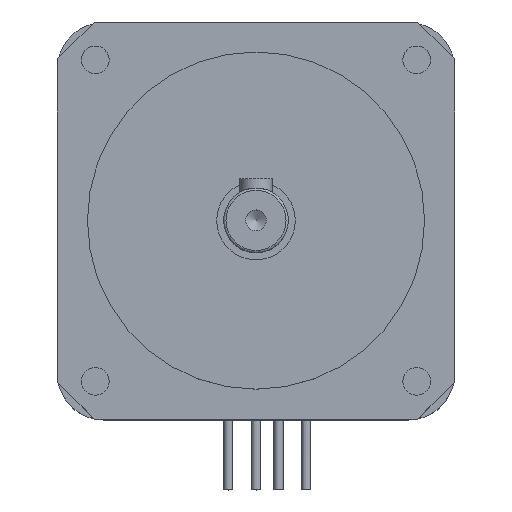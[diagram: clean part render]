
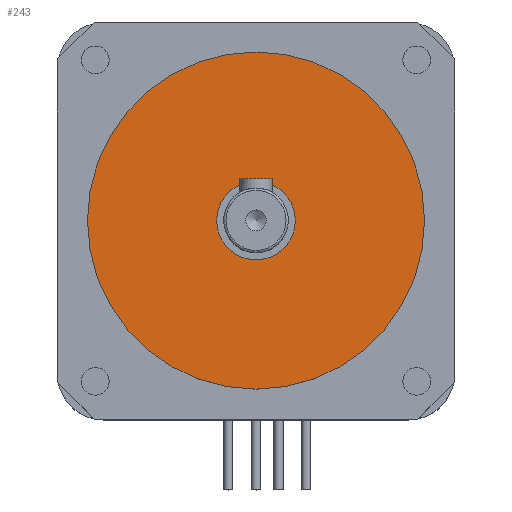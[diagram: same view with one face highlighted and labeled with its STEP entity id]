
A CAD part, top view. The second image highlights one B-rep face of the part: STEP entity #243.
In plain terms, the highlighted planar face has unit normal (0, 0, 1).
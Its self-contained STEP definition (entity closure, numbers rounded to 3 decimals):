
#117=FACE_BOUND('',#522,.T.);
#118=FACE_BOUND('',#523,.T.);
#164=PLANE('',#2267);
#243=ADVANCED_FACE('',(#117,#118),#164,.F.);
#522=EDGE_LOOP('',(#783));
#523=EDGE_LOOP('',(#784,#785,#786,#787));
#669=CIRCLE('',#2255,8.5);
#674=CIRCLE('',#2264,36.5);
#783=ORIENTED_EDGE('',*,*,#1576,.F.);
#784=ORIENTED_EDGE('',*,*,#1578,.T.);
#785=ORIENTED_EDGE('',*,*,#1579,.T.);
#786=ORIENTED_EDGE('',*,*,#1566,.F.);
#787=ORIENTED_EDGE('',*,*,#1580,.T.);
#1359=VERTEX_POINT('',#3125);
#1361=VERTEX_POINT('',#3129);
#1369=VERTEX_POINT('',#3182);
#1371=VERTEX_POINT('',#3187);
#1372=VERTEX_POINT('',#3188);
#1566=EDGE_CURVE('',#1361,#1359,#669,.T.);
#1576=EDGE_CURVE('',#1369,#1369,#674,.T.);
#1578=EDGE_CURVE('',#1371,#1372,#1865,.T.);
#1579=EDGE_CURVE('',#1372,#1359,#1866,.T.);
#1580=EDGE_CURVE('',#1361,#1371,#1867,.T.);
#1865=LINE('',#3186,#2062);
#1866=LINE('',#3189,#2063);
#1867=LINE('',#3190,#2064);
#2062=VECTOR('',#2511,1.);
#2063=VECTOR('',#2512,1.);
#2064=VECTOR('',#2513,1.);
#2255=AXIS2_PLACEMENT_3D('',#3130,#2483,#2484);
#2264=AXIS2_PLACEMENT_3D('',#3181,#2505,#2506);
#2267=AXIS2_PLACEMENT_3D('',#3191,#2514,#2515);
#2483=DIRECTION('',(0.,0.,1.));
#2484=DIRECTION('',(1.,0.,0.));
#2505=DIRECTION('',(0.,0.,-1.));
#2506=DIRECTION('',(1.,0.,0.));
#2511=DIRECTION('',(1.,0.,0.));
#2512=DIRECTION('',(0.,-1.,0.));
#2513=DIRECTION('',(0.,1.,0.));
#2514=DIRECTION('',(0.,0.,-1.));
#2515=DIRECTION('',(-1.,0.,0.));
#3125=CARTESIAN_POINT('',(3.5,7.746,2.5));
#3129=CARTESIAN_POINT('',(-3.5,7.746,2.5));
#3130=CARTESIAN_POINT('',(0.,0.,2.5));
#3181=CARTESIAN_POINT('',(0.,0.,2.5));
#3182=CARTESIAN_POINT('',(36.5,0.,2.5));
#3186=CARTESIAN_POINT('',(0.,9.,2.5));
#3187=CARTESIAN_POINT('',(-3.5,9.,2.5));
#3188=CARTESIAN_POINT('',(3.5,9.,2.5));
#3189=CARTESIAN_POINT('',(3.5,0.,2.5));
#3190=CARTESIAN_POINT('',(-3.5,0.,2.5));
#3191=CARTESIAN_POINT('',(0.,0.,2.5));
